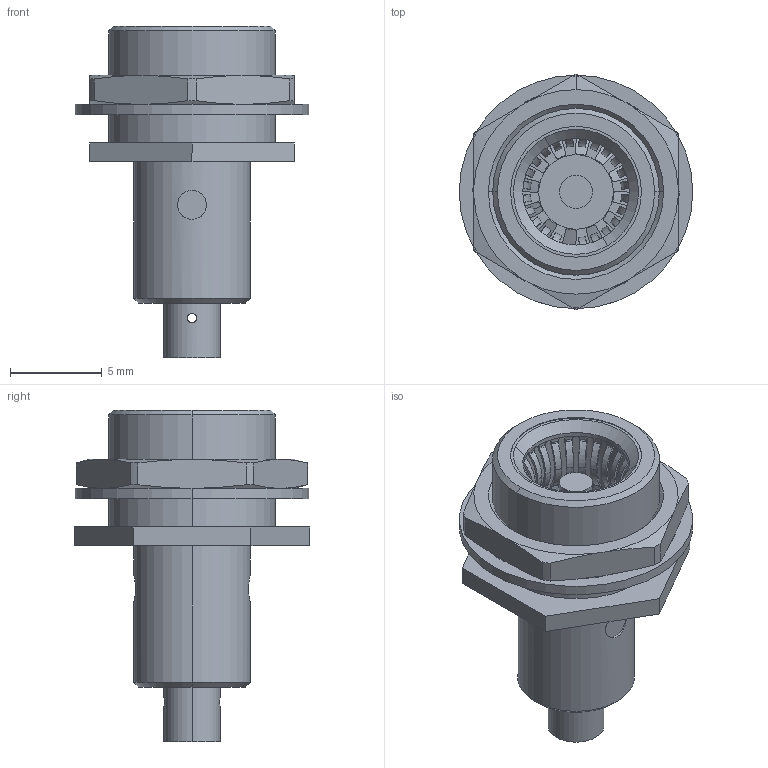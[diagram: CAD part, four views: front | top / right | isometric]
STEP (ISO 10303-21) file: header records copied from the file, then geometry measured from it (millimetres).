
FILE_DESCRIPTION (( 'STEP AP214' ), '1' );
FILE_NAME ('1733-6008.STEP', '2015-12-09T22:12:00', ( '' ), ( '' ), 'SwSTEP 2.0', 'SolidWorks 2015', '' );
FILE_SCHEMA (( 'AUTOMOTIVE_DESIGN' ));
Length unit declared in the file: inch
Products named in the file (1): 1733-6008
Bounding box: 12.7 x 12.83 x 18.03 mm (x, y, z)
Volume: 694.1 mm3; surface area: 1113.2 mm2
Topology: 1 solids, 1 shells, 597 faces, 1897 edges, 1251 vertices
Faces by surface type: torus 210, cylinder 191, plane 84, cone 65, bspline 47
Entity records: 32661 total; most frequent: CARTESIAN_POINT 9359, ORIENTED_EDGE 3794, DIRECTION 2684, EDGE_CURVE 1897, VERTEX_POINT 1251, AXIS2_PLACEMENT_3D 1112, B_SPLINE_CURVE_WITH_KNOTS 874, EDGE_LOOP 618
